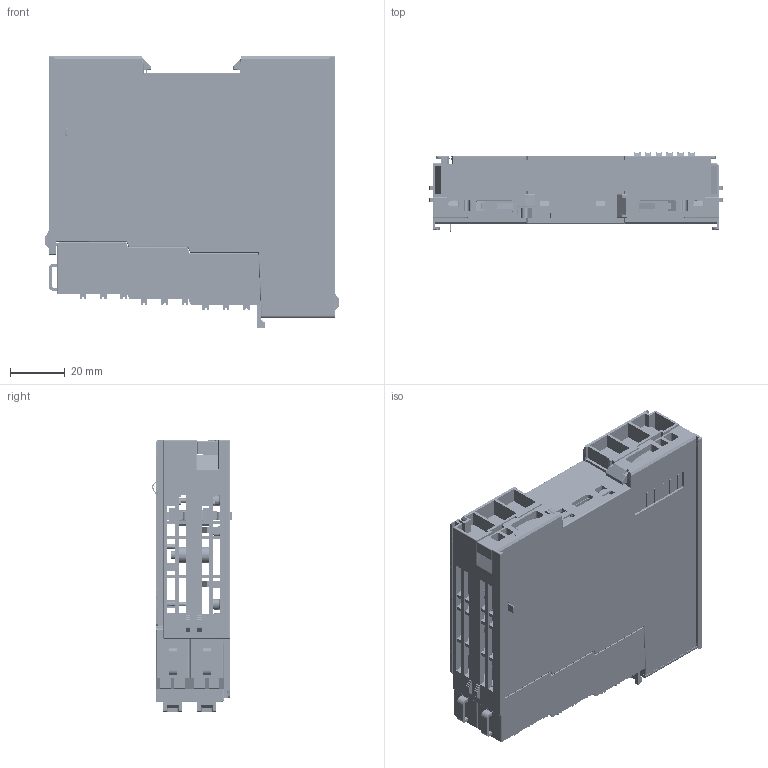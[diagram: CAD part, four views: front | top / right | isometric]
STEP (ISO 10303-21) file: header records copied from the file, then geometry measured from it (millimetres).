
FILE_DESCRIPTION (( 'STEP AP214' ), '1' );
FILE_NAME ('IO_25mm.STEP', '2026-05-10T19:41:39', ( '' ), ( '' ), 'SwSTEP 2.0', 'SolidWorks 2020', '' );
FILE_SCHEMA (( 'AUTOMOTIVE_DESIGN' ));
Length unit declared in the file: millimetre
Products named in the file (22): IO_25mm; CXLJQ-Y-0722.stp; 80880795.stp; 89200106_AF1.stp; PCB-A15-250KZB1-JX1-250KZB2-SZL.stp; PCB-A15-250KZB1_AF0.stp; 80740375.stp; 80880796.stp; DDD1.stp; 2X9-0131.stp; PK2205-USB.stp; 77559742.stp; 77559739.stp; PCB-A15-250KZB2-SZL_ASM.stp; 77559742_AF0.stp; 89200106_AF0.stp; PCB-A15-250KZB1-B.stp; CXLJQ-Z-1216.stp; PCB-A15-250KZB1_ASM.stp; PCB-A15-250KZ_ASM.stp; 25mm?IO??.stp; 80740373.stp
Assembly tree (59 placements, depth 5):
  IO_25mm
    25mm?IO??.stp
      PCB-A15-250KZ_ASM.stp
        PCB-A15-250KZB1_ASM.stp
          PCB-A15-250KZB1_AF0.stp
          77559742_AF0.stp
          89200106_AF1.stp
          89200106_AF0.stp
          CXLJQ-Y-0722.stp
          CXLJQ-Z-1216.stp
          DDD1.stp  x18
          PCB-A15-250KZB1-B.stp
        PCB-A15-250KZB2-SZL_ASM.stp
          PCB-A15-250KZB1-JX1-250KZB2-SZL.stp
          77559739.stp
          77559742.stp
          CXLJQ-Y-0722.stp
          CXLJQ-Z-1216.stp
          DDD1.stp  x18
          PK2205-USB.stp
      80740373.stp
      80740375.stp
      80880795.stp
      80880796.stp
      2X9-0131.stp  x2
Bounding box: 108 x 29.2 x 99.5 mm (x, y, z)
Volume: 67278.7 mm3; surface area: 119062.3 mm2
Topology: 74 solids, 89 shells, 11567 faces, 32746 edges, 21266 vertices
Faces by surface type: plane 8885, cylinder 1911, bspline 425, cone 215, torus 95, sphere 36
Entity records: 224791 total; most frequent: CARTESIAN_POINT 62906, ORIENTED_EDGE 35324, DIRECTION 30617, EDGE_CURVE 17700, VECTOR 13487, LINE 13487, VERTEX_POINT 11505, AXIS2_PLACEMENT_3D 8565
